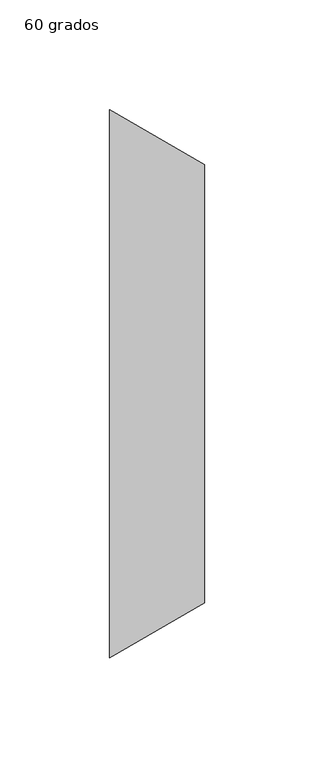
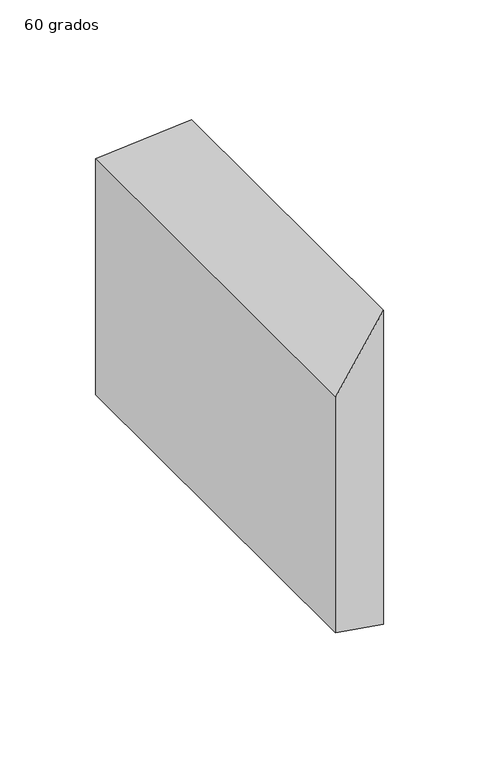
"""IFC4 building model written with IfcOpenShell, lengths in millimetres: duct fitting geometry, M_Transición rectangular - Ángulo : 60 grados."""

from ifc_helpers import new_model, si_unit, origin, place, context, project, spatial, faceted_brep, source, transform, mapped, element, save


def duct_fitting_60_grados_3e08b92e(model_context):
    return source(origin(), model_context, "Body", "Brep", [
        faceted_brep([(43.3012702, -100.0, 100.0), (43.3012702, -100.0, -100.0), (43.3012702, 100.0, -100.0), (43.3012702, 100.0, 100.0), (0.0, -125.0, 75.0), (0.0, 125.0, 75.0), (0.0, 125.0, -75.0), (0.0, -125.0, -75.0)], [[[0, 1, 2, 3]], [[4, 5, 6, 7]], [[4, 7, 1, 0]], [[7, 6, 2, 1]], [[6, 5, 3, 2]], [[5, 4, 0, 3]]]),
    ])


if __name__ == "__main__":
    model = new_model("IFC4")
    model_context = context("Model", 3, world=origin())
    ifc_project = project(units=[si_unit("LENGTHUNIT", "METRE", prefix="MILLI")], contexts=[model_context])
    site = spatial("IfcSite", under=ifc_project)
    building = spatial("IfcBuilding", under=site)
    placement = place(None, origin())
    duct_fitting_60_grados_shape = duct_fitting_60_grados_3e08b92e(model_context)
    element("IfcDuctFitting", 1, ObjectType="M_Transición rectangular - Ángulo : 60 grados", at=placement, inside=building, context=model_context, shape_type="MappedRepresentation", body=[
        mapped(duct_fitting_60_grados_shape, transform((0.0, 0.0, 0.0), x_axis=(1.0, 0.0, 0.0), y_axis=(0.0, 1.0, 0.0), z_axis=(0.0, 0.0, 1.0))),
    ])
    save(model, "model.ifc")
